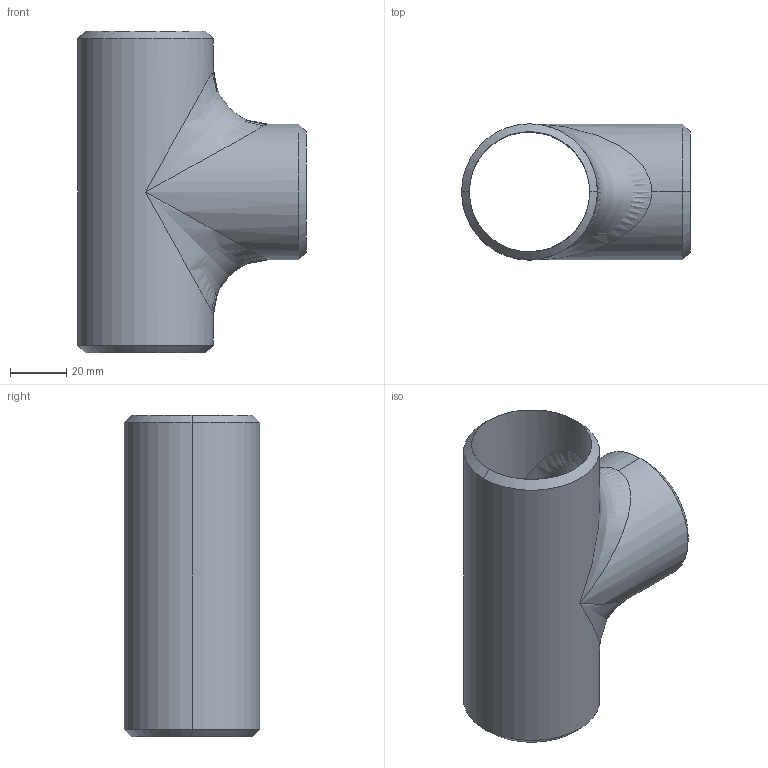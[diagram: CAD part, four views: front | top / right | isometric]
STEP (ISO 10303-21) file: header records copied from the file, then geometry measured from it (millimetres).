
FILE_DESCRIPTION (( 'STEP AP203' ), '1' );
FILE_NAME ('3D_R266_1 1-2x10S_173445137.STEP', '2024-08-23T10:56:22', ( '' ), ( '' ), 'SwSTEP 2.0', 'SolidWorks 2024', '' );
FILE_SCHEMA (( 'CONFIG_CONTROL_DESIGN' ));
Length unit declared in the file: millimetre
Products named in the file (1): 3D_R266_1 1-2x10S_173445137
Bounding box: 81.35 x 48.3 x 114.4 mm (x, y, z)
Volume: 54164.2 mm3; surface area: 40722 mm2
Topology: 1 solids, 1 shells, 21 faces, 58 edges, 30 vertices
Faces by surface type: cylinder 8, cone 6, bspline 4, plane 3
Entity records: 1315 total; most frequent: CARTESIAN_POINT 794, ORIENTED_EDGE 100, DIRECTION 88, EDGE_CURVE 50, AXIS2_PLACEMENT_3D 36, VERTEX_POINT 30, EDGE_LOOP 24, FACE_OUTER_BOUND 21
